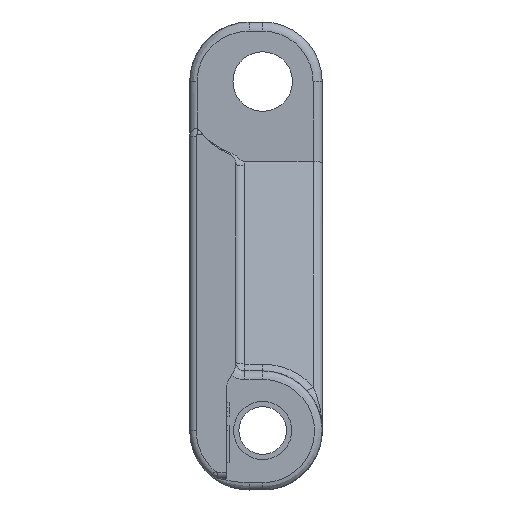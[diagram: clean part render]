
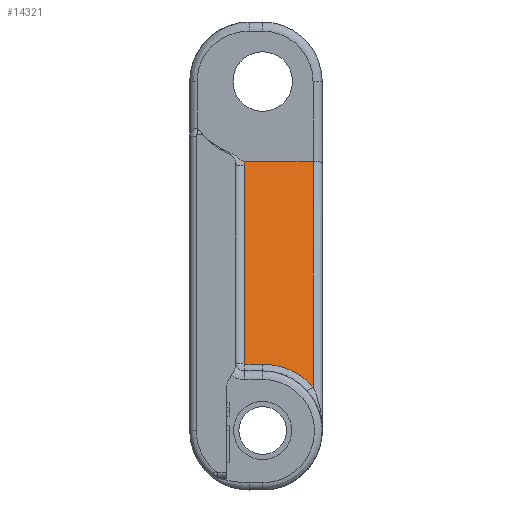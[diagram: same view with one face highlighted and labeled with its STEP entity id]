
A CAD part, left-side view. The second image highlights one B-rep face of the part: STEP entity #14321.
In plain terms, the highlighted planar face has unit normal (-0.972, 0, 0.233).
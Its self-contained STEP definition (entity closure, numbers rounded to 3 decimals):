
#1691=DIRECTION('',(-0.233,0.,-0.972));
#1692=VECTOR('',#1691,22.239);
#1693=CARTESIAN_POINT('',(-47.511,2.01,9.854));
#1694=LINE('',#1693,#1692);
#1729=CARTESIAN_POINT('',(-47.4,2.063,10.316));
#1730=CARTESIAN_POINT('',(-47.418,2.045,10.24));
#1731=CARTESIAN_POINT('',(-47.455,2.019,10.086));
#1732=CARTESIAN_POINT('',(-47.492,2.01,9.932));
#1733=CARTESIAN_POINT('',(-47.511,2.01,9.854));
#2042=DIRECTION('',(0.,-1.,0.));
#2043=VECTOR('',#2042,1.96);
#2044=CARTESIAN_POINT('',(-52.71,1.96,
-11.822));
#2045=LINE('',#2044,#2043);
#2046=CARTESIAN_POINT('',(-52.698,2.01,
-11.772));
#2047=CARTESIAN_POINT('',(-52.699,2.01,
-11.775));
#2048=CARTESIAN_POINT('',(-52.701,2.01,
-11.78));
#2049=CARTESIAN_POINT('',(-52.703,2.007,
-11.789));
#2050=CARTESIAN_POINT('',(-52.704,2.004,
-11.797));
#2051=CARTESIAN_POINT('',(-52.706,1.999,
-11.804));
#2052=CARTESIAN_POINT('',(-52.708,1.992,
-11.81));
#2053=CARTESIAN_POINT('',(-52.709,1.985,
-11.815));
#2054=CARTESIAN_POINT('',(-52.71,1.977,
-11.819));
#2055=CARTESIAN_POINT('',(-52.71,1.969,
-11.821));
#2056=CARTESIAN_POINT('',(-52.71,1.963,
-11.822));
#2057=CARTESIAN_POINT('',(-52.71,1.96,
-11.822));
#2077=CARTESIAN_POINT('',(-52.71,0.,
-11.822));
#2078=CARTESIAN_POINT('',(-52.71,-0.288,
-11.822));
#2079=CARTESIAN_POINT('',(-52.718,-0.863,
-11.855));
#2080=CARTESIAN_POINT('',(-52.755,-1.729,
-12.007));
#2081=CARTESIAN_POINT('',(-52.816,-2.577,
-12.263));
#2082=CARTESIAN_POINT('',(-52.902,-3.393,
-12.619));
#2083=CARTESIAN_POINT('',(-53.01,-4.162,
-13.071));
#2084=CARTESIAN_POINT('',(-53.14,-4.872,
-13.612));
#2085=CARTESIAN_POINT('',(-53.239,-5.298,
-14.026));
#2086=CARTESIAN_POINT('',(-53.292,-5.5,
-14.246));
#2133=DIRECTION('',(0.233,0.,0.972));
#2134=VECTOR('',#2133,25.259);
#2135=CARTESIAN_POINT('',(-53.292,-5.5,
-14.246));
#2136=LINE('',#2135,#2134);
#2330=DIRECTION('',(0.,-1.,0.));
#2331=VECTOR('',#2330,7.563);
#2332=CARTESIAN_POINT('',(-47.4,2.063,10.316));
#2333=LINE('',#2332,#2331);
#10360=VERTEX_POINT('',#2077);
#10361=VERTEX_POINT('',#2086);
#10366=CARTESIAN_POINT('',(-52.71,1.96,
-11.822));
#10367=VERTEX_POINT('',#10366);
#10372=CARTESIAN_POINT('',(-47.511,2.01,
9.854));
#10373=CARTESIAN_POINT('',(-52.698,2.01,
-11.772));
#10374=VERTEX_POINT('',#10372);
#10375=VERTEX_POINT('',#10373);
#10495=CARTESIAN_POINT('',(-47.4,-5.5,10.316));
#10496=VERTEX_POINT('',#10495);
#10621=VERTEX_POINT('',#1729);
#14304=CARTESIAN_POINT('',(-54.444,-6.5,-19.05));
#14305=DIRECTION('',(0.972,0.,-0.233));
#14306=DIRECTION('',(0.233,0.,0.972));
#14307=AXIS2_PLACEMENT_3D('',#14304,#14305,#14306);
#14308=PLANE('',#14307);
#14310=ORIENTED_EDGE('',*,*,#14309,.F.);
#14311=ORIENTED_EDGE('',*,*,#14232,.F.);
#14312=ORIENTED_EDGE('',*,*,#14296,.F.);
#14313=ORIENTED_EDGE('',*,*,#13729,.F.);
#14314=ORIENTED_EDGE('',*,*,#13787,.F.);
#14316=ORIENTED_EDGE('',*,*,#14315,.T.);
#14318=ORIENTED_EDGE('',*,*,#14317,.F.);
#14319=EDGE_LOOP('',(#14310,#14311,#14312,#14313,#14314,#14316,#14318));
#14320=FACE_OUTER_BOUND('',#14319,.F.);
#1734=B_SPLINE_CURVE_WITH_KNOTS('',3,(#1729,#1730,#1731,#1732,#1733),
.UNSPECIFIED.,.F.,.F.,(4,1,4),(0.,0.5,1.),.UNSPECIFIED.);
#2058=B_SPLINE_CURVE_WITH_KNOTS('',3,(#2046,#2047,#2048,#2049,#2050,#2051,#2052,
#2053,#2054,#2055,#2056,#2057),.UNSPECIFIED.,.F.,.F.,(4,1,1,1,1,1,1,1,1,4),
(0.,0.111,0.222,0.333,0.444,
0.556,0.667,0.778,0.889,1.),
.UNSPECIFIED.);
#2087=B_SPLINE_CURVE_WITH_KNOTS('',3,(#2077,#2078,#2079,#2080,#2081,#2082,#2083,
#2084,#2085,#2086),.UNSPECIFIED.,.F.,.F.,(4,1,1,1,1,1,1,4),(0.,
0.143,0.286,0.429,0.571,
0.714,0.857,1.),.UNSPECIFIED.);
#13729=EDGE_CURVE('',#10374,#10375,#1694,.T.);
#13787=EDGE_CURVE('',#10621,#10374,#1734,.T.);
#14232=EDGE_CURVE('',#10367,#10360,#2045,.T.);
#14296=EDGE_CURVE('',#10375,#10367,#2058,.T.);
#14309=EDGE_CURVE('',#10360,#10361,#2087,.T.);
#14315=EDGE_CURVE('',#10621,#10496,#2333,.T.);
#14317=EDGE_CURVE('',#10361,#10496,#2136,.T.);
#14321=ADVANCED_FACE('',(#14320),#14308,.F.);
